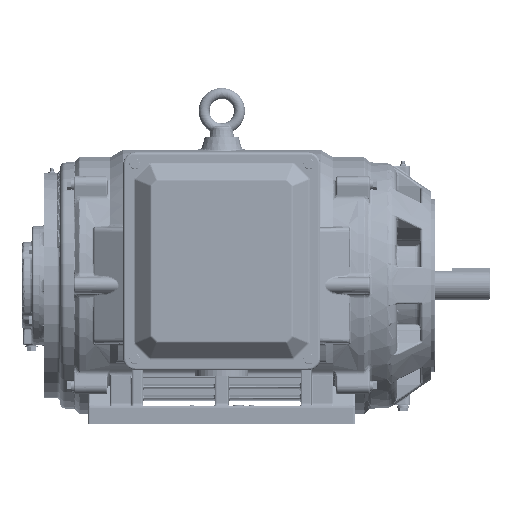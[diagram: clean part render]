
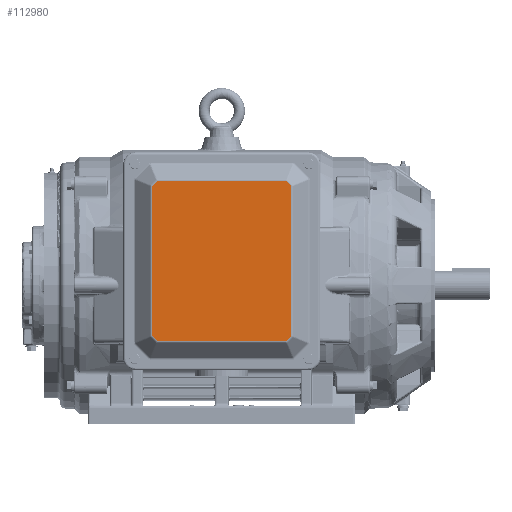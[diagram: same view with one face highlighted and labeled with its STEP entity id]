
A CAD part, top view. The second image highlights one B-rep face of the part: STEP entity #112980.
In plain terms, the highlighted planar face has unit normal (0, 0, 1).
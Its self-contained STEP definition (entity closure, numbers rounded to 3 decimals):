
#1134 = ORIENTED_EDGE ( 'NONE', *, *, #147197, .T. ) ;
#11211 = DIRECTION ( 'NONE',  ( 0.707, 0.707, 0. ) ) ;
#27391 = VECTOR ( 'NONE', #239760, 39.37 ) ;
#30113 = VECTOR ( 'NONE', #284566, 39.37 ) ;
#34959 = CARTESIAN_POINT ( 'NONE',  ( -5.037, 7.146, 18.209 ) ) ;
#38746 = ORIENTED_EDGE ( 'NONE', *, *, #156171, .T. ) ;
#55235 = AXIS2_PLACEMENT_3D ( 'NONE', #178655, #426095, #458080 ) ;
#70591 = CARTESIAN_POINT ( 'NONE',  ( 4.666, 7.517, 18.209 ) ) ;
#73964 = VERTEX_POINT ( 'NONE', #70591 ) ;
#74400 = VERTEX_POINT ( 'NONE', #306196 ) ;
#77475 = CARTESIAN_POINT ( 'NONE',  ( -5.06, 7.122, 18.209 ) ) ;
#79105 = CARTESIAN_POINT ( 'NONE',  ( 5.037, 7.18, 18.209 ) ) ;
#80092 = LINE ( 'NONE', #77475, #27391 ) ;
#88246 = VERTEX_POINT ( 'NONE', #34959 ) ;
#94467 = DIRECTION ( 'NONE',  ( -0.707, 0.707, 0. ) ) ;
#95371 = LINE ( 'NONE', #329650, #176142 ) ;
#112980 = ADVANCED_FACE ( 'NONE', ( #487590 ), #511140, .T. ) ;
#115224 = CARTESIAN_POINT ( 'NONE',  ( 5.037, 7.146, 18.209 ) ) ;
#129048 = ORIENTED_EDGE ( 'NONE', *, *, #385933, .T. ) ;
#136984 = VERTEX_POINT ( 'NONE', #509671 ) ;
#139203 = CARTESIAN_POINT ( 'NONE',  ( -4.642, -4.076, 18.209 ) ) ;
#140177 = CARTESIAN_POINT ( 'NONE',  ( 5.037, -3.682, 18.209 ) ) ;
#147197 = EDGE_CURVE ( 'NONE', #74400, #284134, #524021, .T. ) ;
#151416 = VECTOR ( 'NONE', #11211, 39.37 ) ;
#156171 = EDGE_CURVE ( 'NONE', #518095, #73964, #171680, .T. ) ;
#157169 = ORIENTED_EDGE ( 'NONE', *, *, #167234, .T. ) ;
#160069 = CARTESIAN_POINT ( 'NONE',  ( -4.7, 7.517, 18.209 ) ) ;
#167234 = EDGE_CURVE ( 'NONE', #284134, #257428, #265731, .T. ) ;
#171680 = LINE ( 'NONE', #254138, #398666 ) ;
#172812 = ORIENTED_EDGE ( 'NONE', *, *, #519116, .T. ) ;
#176142 = VECTOR ( 'NONE', #209863, 39.37 ) ;
#178655 = CARTESIAN_POINT ( 'NONE',  ( 0., 1.732, 18.209 ) ) ;
#209863 = DIRECTION ( 'NONE',  ( 0., -1., 0. ) ) ;
#218983 = LINE ( 'NONE', #139203, #278167 ) ;
#239760 = DIRECTION ( 'NONE',  ( -0.707, -0.707, 0. ) ) ;
#254138 = CARTESIAN_POINT ( 'NONE',  ( 4.642, 7.541, 18.209 ) ) ;
#254627 = CARTESIAN_POINT ( 'NONE',  ( 4.666, -4.052, 18.209 ) ) ;
#255112 = EDGE_CURVE ( 'NONE', #88246, #288332, #95371, .T. ) ;
#257428 = VERTEX_POINT ( 'NONE', #140177 ) ;
#265731 = LINE ( 'NONE', #470600, #151416 ) ;
#278167 = VECTOR ( 'NONE', #506278, 39.37 ) ;
#284134 = VERTEX_POINT ( 'NONE', #254627 ) ;
#284566 = DIRECTION ( 'NONE',  ( 1., 0., 0. ) ) ;
#288332 = VERTEX_POINT ( 'NONE', #449632 ) ;
#306196 = CARTESIAN_POINT ( 'NONE',  ( -4.666, -4.052, 18.209 ) ) ;
#319194 = VECTOR ( 'NONE', #478304, 39.37 ) ;
#321858 = CARTESIAN_POINT ( 'NONE',  ( 4.7, -4.052, 18.209 ) ) ;
#329650 = CARTESIAN_POINT ( 'NONE',  ( -5.037, -3.715, 18.209 ) ) ;
#385933 = EDGE_CURVE ( 'NONE', #73964, #136984, #521896, .T. ) ;
#391436 = VECTOR ( 'NONE', #404783, 39.37 ) ;
#398666 = VECTOR ( 'NONE', #94467, 39.37 ) ;
#404783 = DIRECTION ( 'NONE',  ( -1., 0., 0. ) ) ;
#426095 = DIRECTION ( 'NONE',  ( 0., 0., 1. ) ) ;
#438335 = LINE ( 'NONE', #79105, #319194 ) ;
#449632 = CARTESIAN_POINT ( 'NONE',  ( -5.037, -3.682, 18.209 ) ) ;
#458080 = DIRECTION ( 'NONE',  ( 0., 1., 0. ) ) ;
#469389 = EDGE_CURVE ( 'NONE', #257428, #518095, #438335, .T. ) ;
#470600 = CARTESIAN_POINT ( 'NONE',  ( 5.06, -3.658, 18.209 ) ) ;
#478304 = DIRECTION ( 'NONE',  ( 0., 1., 0. ) ) ;
#479938 = ORIENTED_EDGE ( 'NONE', *, *, #469389, .T. ) ;
#487590 = FACE_OUTER_BOUND ( 'NONE', #493482, .T. ) ;
#493482 = EDGE_LOOP ( 'NONE', ( #157169, #479938, #38746, #129048, #523075, #523164, #172812, #1134 ) ) ;
#497702 = EDGE_CURVE ( 'NONE', #136984, #88246, #80092, .T. ) ;
#506278 = DIRECTION ( 'NONE',  ( 0.707, -0.707, 0. ) ) ;
#509671 = CARTESIAN_POINT ( 'NONE',  ( -4.666, 7.517, 18.209 ) ) ;
#511140 = PLANE ( 'NONE',  #55235 ) ;
#518095 = VERTEX_POINT ( 'NONE', #115224 ) ;
#519116 = EDGE_CURVE ( 'NONE', #288332, #74400, #218983, .T. ) ;
#521896 = LINE ( 'NONE', #160069, #391436 ) ;
#523075 = ORIENTED_EDGE ( 'NONE', *, *, #497702, .T. ) ;
#523164 = ORIENTED_EDGE ( 'NONE', *, *, #255112, .T. ) ;
#524021 = LINE ( 'NONE', #321858, #30113 ) ;
